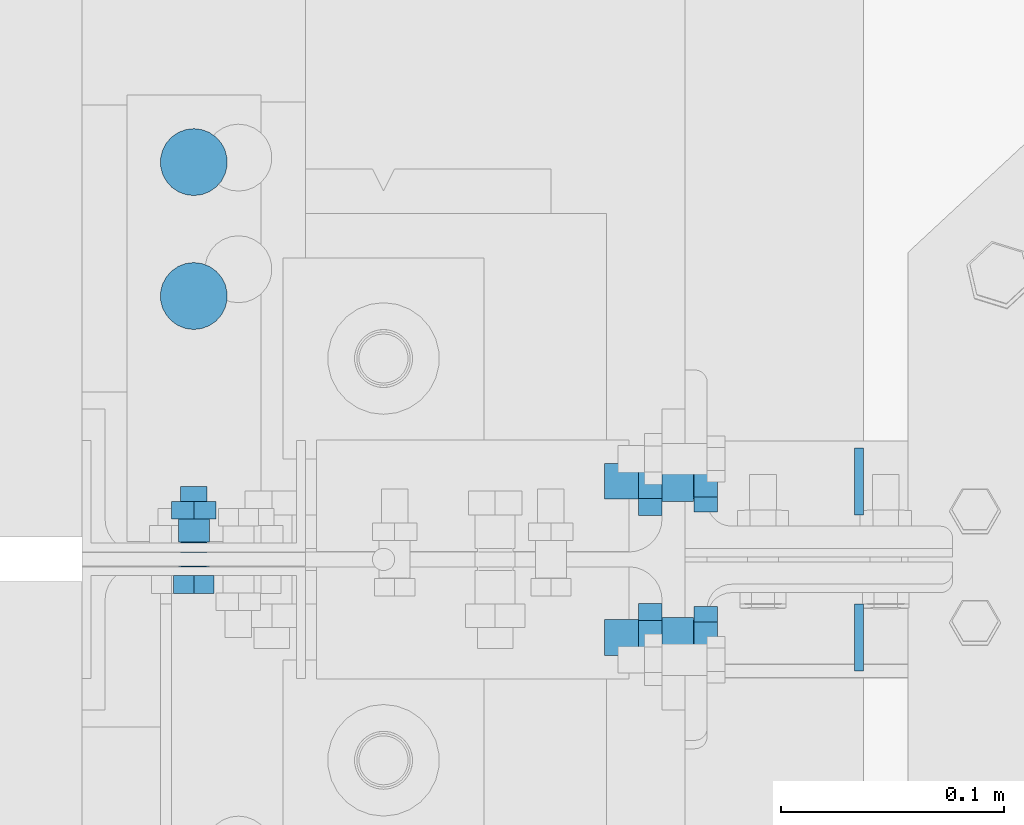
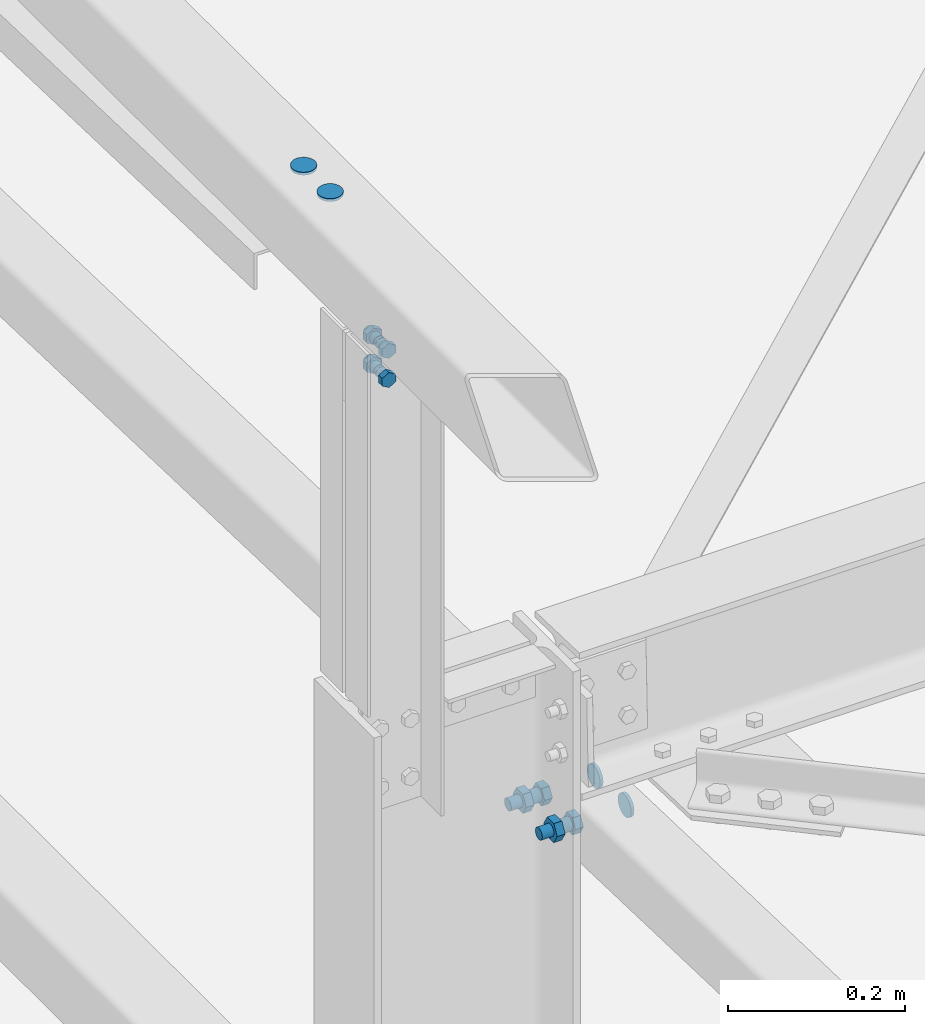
# One storey, part 210 of 362: 6 mechanical fasteners.
"""IFC2X3 building model written with IfcOpenShell, lengths in millimetres."""

from ifc_helpers import new_model, si_unit, frame, origin_with_axes, origin_2d_with_axis, place, context, subcontext, project, spatial, polyline, circle, outline, extrude, source, transform, mapped, material, type_object, element, save


model = new_model("IFC2X3")

# Units and contexts
model_context = context("Model", 3, precision=1e-05, world=origin_with_axes())
body_context = subcontext(model_context, "Body", "Model", "MODEL_VIEW")
ifc_project = project(units=[si_unit("LENGTHUNIT", "METRE", prefix="MILLI"), si_unit("AREAUNIT", "SQUARE_METRE"), si_unit("VOLUMEUNIT", "CUBIC_METRE"), si_unit("MASSUNIT", "GRAM", prefix="KILO"), si_unit("TIMEUNIT", "SECOND"), si_unit("PLANEANGLEUNIT", "RADIAN"), si_unit("SOLIDANGLEUNIT", "STERADIAN"), si_unit("THERMODYNAMICTEMPERATUREUNIT", "DEGREE_CELSIUS"), si_unit("LUMINOUSINTENSITYUNIT", "LUMEN")], contexts=[model_context])

# Site, building, storey
site_placement = place(None, origin_with_axes())
site = spatial("IfcSite", under=ifc_project, at=site_placement, Name="Undefined", CompositionType="ELEMENT")
building_placement = place(site_placement, origin_with_axes())
building = spatial("IfcBuilding", under=site, at=building_placement, Name="Undefined", CompositionType="ELEMENT")
storey_placement = place(building_placement, origin_with_axes())
storey = spatial("IfcBuildingStorey", under=building, at=storey_placement, Name="Undefined", CompositionType="ELEMENT", Elevation=0.0)

# Mechanical fasteners
ifc_material_1 = material(Name="6.8")
mechanical_fastener_type = type_object("IfcMechanicalFastenerType", Name="Bolt assembly")
shared_shape_1 = source(origin_with_axes(), body_context, "Body", "SweptSolid", [
    extrude(circle(Radius=15.0, at=origin_2d_with_axis()), frame((0.0, 0.0, 0.0), z_axis=(0.0, 1.0, 0.0), x_axis=(1.0, 0.0, 0.0)), (0.0, 0.0, 1.0), 4.1),
])
for number, where, z_axis, x_axis, name in (
    (1, (170.0, 3835.0, 7689.36174371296), (0.0, 0.0, 1.0), (0.0, 1.0, 0.0), "Bolt assembly"),
    (2, (170.0, 3765.0, 7691.56158310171), (0.0, 0.0, -1.0), (0.0, -1.0, 0.0), "Bolt assembly"),
):
    element("IfcMechanicalFastener", number, at=place(storey_placement, frame(where, z_axis=z_axis, x_axis=x_axis)), inside=storey, type_object=mechanical_fastener_type, material=ifc_material_1, Name=name, NominalDiameter=30.0, NominalLength=4.0, context=body_context, shape_type="MappedRepresentation", body=[
        mapped(shared_shape_1, transform((0.0, 0.0, 0.0))),
    ])
mechanical_fastener_1_placement = place(storey_placement, frame((-129.999999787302, 3978.0, 8550.0), z_axis=(1.0, 0.0, 0.0), x_axis=(0.0, -1.0, 0.0)))
element("IfcMechanicalFastener", 3, at=mechanical_fastener_1_placement, inside=storey, type_object=mechanical_fastener_type, material=ifc_material_1, Name="Bolt assembly", NominalDiameter=30.0, NominalLength=4.0, context=body_context, shape_type="MappedRepresentation", body=[
    mapped(shared_shape_1, transform((0.0, 0.0, 0.0))),
    mapped(shared_shape_1, transform((60.0, 0.0, 0.0))),
])
ifc_material_2 = material(Name="8.8-SB-ZINGUE")
shared_shape_2 = source(origin_with_axes(), body_context, "Body", "SweptSolid", [
    extrude(circle(Radius=9.0, at=origin_2d_with_axis()), frame((0.0, -0.100011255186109, 0.0), z_axis=(0.0, 1.0, 0.0), x_axis=(1.0, 0.0, 0.0)), (0.0, 0.0, 1.0), 10.3),
    extrude(circle(Radius=9.0, at=origin_2d_with_axis()), frame((0.0, -3.89999843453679, 0.0), z_axis=(0.0, 1.0, 0.0), x_axis=(1.0, 0.0, 0.0)), (0.0, 0.0, 1.0), 4.0),
    extrude(outline(polyline([(13.85640646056, 0.0), (6.92820323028, 12.0000000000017), (-6.92820323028, 12.0000000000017), (-13.85640646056, 0.0), (-6.92820323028, -12.0000000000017), (6.92820323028, -12.0000000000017), (13.85640646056, 0.0)])), frame((0.0, -14.560000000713, 0.0), z_axis=(0.0, 1.0, 0.0), x_axis=(1.0, 0.0, 0.0)), (0.0, 0.0, 1.0), 10.56),
    extrude(circle(Radius=8.0, at=origin_2d_with_axis()), frame((0.0, -3.99999923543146, 0.0), z_axis=(0.0, 1.0, 0.0), x_axis=(1.0, 0.0, 0.0)), (0.0, 0.0, 1.0), 40.0),
    extrude(outline(polyline([(15.3344231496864, 0.0), (7.6672115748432, 13.2800000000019), (-7.6672115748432, 13.2800000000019), (-15.3344231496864, 0.0), (-7.6672115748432, -13.2800000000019), (7.6672115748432, -13.2800000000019), (15.3344231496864, 0.0)])), frame((0.0, 10.1999997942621, 0.0), z_axis=(0.0, 1.0, 0.0), x_axis=(1.0, 0.0, 0.0)), (0.0, 0.0, 1.0), 10.56),
])
for number, where, z_axis, x_axis, name in (
    (4, (90.0, 3835.0, 7689.36174371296), (0.0, 0.0, 1.0), (0.0, 1.0, 0.0), "Bolt assembly"),
    (5, (90.0, 3765.0, 7691.56158310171), (0.0, 0.0, -1.0), (0.0, -1.0, 0.0), "Bolt assembly"),
):
    element("IfcMechanicalFastener", number, at=place(storey_placement, frame(where, z_axis=z_axis, x_axis=x_axis)), inside=storey, type_object=mechanical_fastener_type, material=ifc_material_2, Name=name, NominalDiameter=16.0, NominalLength=40.0, context=body_context, shape_type="MappedRepresentation", body=[
        mapped(shared_shape_2, transform((0.0, 0.0, 0.0))),
    ])
shared_shape_3 = source(origin_with_axes(), body_context, "Body", "SweptSolid", [
    extrude(circle(Radius=7.0, at=origin_2d_with_axis()), frame((0.0, 7.8998951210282, 0.0), z_axis=(0.0, 1.0, 0.0), x_axis=(1.0, 0.0, 0.0)), (0.0, 0.0, 1.0), 10.1),
    extrude(circle(Radius=7.0, at=origin_2d_with_axis()), frame((0.0, 3.2998950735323, 0.0), z_axis=(0.0, 1.0, 0.0), x_axis=(1.0, 0.0, 0.0)), (0.0, 0.0, 1.0), 4.0),
    extrude(circle(Radius=7.0, at=origin_2d_with_axis()), frame((0.0, -3.00010487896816, 0.0), z_axis=(0.0, 1.0, 0.0), x_axis=(1.0, 0.0, 0.0)), (0.0, 0.0, 1.0), 6.0),
    extrude(circle(Radius=7.0, at=origin_2d_with_axis()), frame((0.0, -7.20010483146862, 0.0), z_axis=(0.0, 1.0, 0.0), x_axis=(1.0, 0.0, 0.0)), (0.0, 0.0, 1.0), 4.0),
    extrude(outline(polyline([(10.39230484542, 0.0), (5.19615242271, 9.00000000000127), (-5.19615242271, 9.00000000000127), (-10.39230484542, 0.0), (-5.19615242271, -9.00000000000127), (5.19615242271, -9.00000000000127), (10.39230484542, 0.0)])), frame((0.0, -15.2201048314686, 0.0), z_axis=(0.0, 1.0, 0.0), x_axis=(1.0, 0.0, 0.0)), (0.0, 0.0, 1.0), 7.92),
    extrude(circle(Radius=6.0, at=origin_2d_with_axis()), frame((0.0, -7.30007158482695, 0.0), z_axis=(0.0, 1.0, 0.0), x_axis=(1.0, 0.0, 0.0)), (0.0, 0.0, 1.0), 40.0),
    extrude(outline(polyline([(11.5008173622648, 0.0), (5.7504086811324, 9.96000000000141), (-5.7504086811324, 9.96000000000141), (-11.5008173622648, 0.0), (-5.7504086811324, -9.96000000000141), (5.7504086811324, -9.96000000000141), (11.5008173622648, 0.0)])), frame((0.0, 17.9998951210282, 0.0), z_axis=(0.0, 1.0, 0.0), x_axis=(1.0, 0.0, 0.0)), (0.0, 0.0, 1.0), 7.92),
])
mechanical_fastener_2_placement = place(storey_placement, frame((-129.999999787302, 3800.00010487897, 8370.0), z_axis=(-1.0, 0.0, 0.0), x_axis=(0.0, 0.0, 1.0)))
element("IfcMechanicalFastener", 6, at=mechanical_fastener_2_placement, inside=storey, type_object=mechanical_fastener_type, material=ifc_material_2, Name="Bolt assembly", NominalDiameter=12.0, NominalLength=40.0, context=body_context, shape_type="MappedRepresentation", body=[
    mapped(shared_shape_3, transform((0.0, 0.0, 0.0))),
    mapped(shared_shape_3, transform((40.0, 0.0, 0.0))),
])

save(model, "model.ifc")
